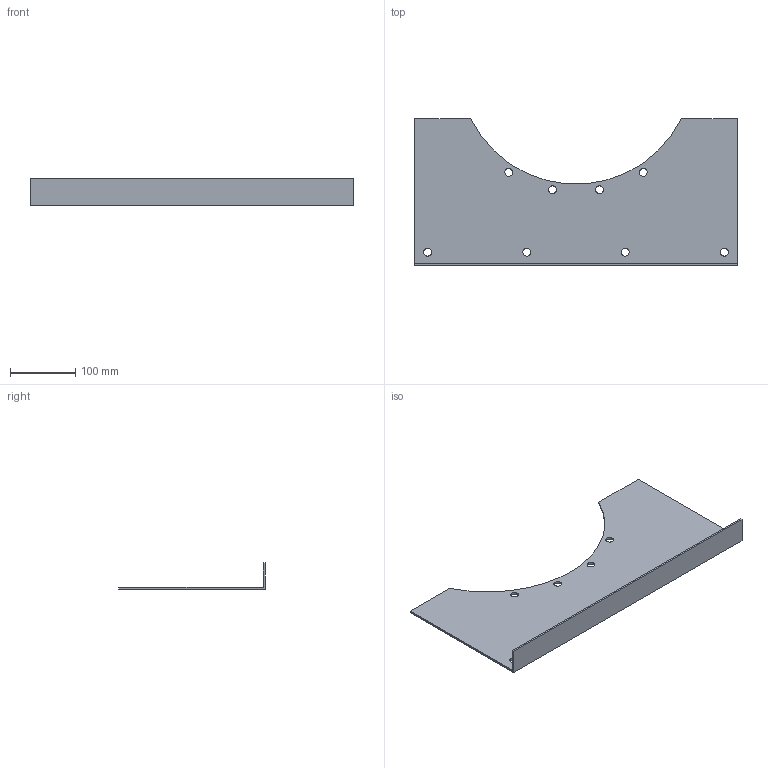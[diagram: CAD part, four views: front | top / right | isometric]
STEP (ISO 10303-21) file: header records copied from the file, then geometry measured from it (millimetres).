
FILE_DESCRIPTION(('STEP AP214'),'1');
FILE_NAME('accessory_5138902700.stp','2017-10-09T07:38:51',('TraceParts'),('TraceParts S.A.'),'Spatial InterOp 3D',' ',' ');
FILE_SCHEMA(('automotive_design'));
Length unit declared in the file: millimetre
Products named in the file (1): accessory_5138902700
Bounding box: 495 x 225 x 40 mm (x, y, z)
Volume: 316538.2 mm3; surface area: 216705.3 mm2
Topology: 1 solids, 1 shells, 26 faces, 72 edges, 48 vertices
Faces by surface type: cylinder 17, plane 9
Entity records: 1106 total; most frequent: DIRECTION 160, CARTESIAN_POINT 147, ORIENTED_EDGE 144, EDGE_CURVE 72, AXIS2_PLACEMENT_3D 61, VERTEX_POINT 48, EDGE_LOOP 42, LINE 38
